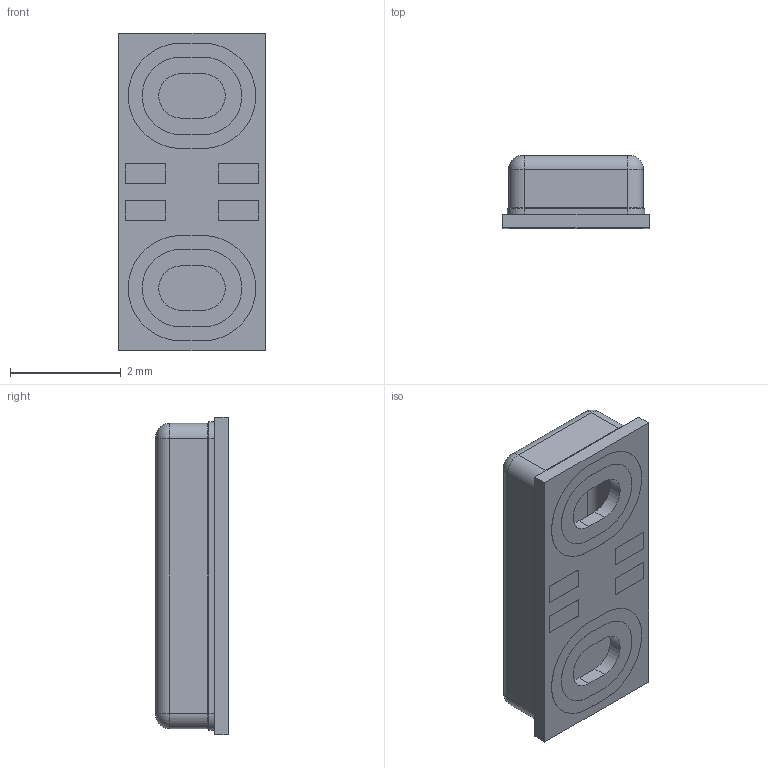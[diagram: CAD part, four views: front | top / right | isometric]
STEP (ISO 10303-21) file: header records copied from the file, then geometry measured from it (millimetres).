
FILE_DESCRIPTION (( 'STEP AP214' ), '1' );
FILE_NAME ('SKR0710.STEP', '2025-08-05T14:30:28', ( '' ), ( '' ), 'SwSTEP 2.0', 'SolidWorks 2025', '' );
FILE_SCHEMA (( 'AUTOMOTIVE_DESIGN' ));
Length unit declared in the file: inch
Products named in the file (5): SKR0710; SKR0710 PCB; MEMS die; Zilltek ZTA4909A Digital ASIC; SKR0710 lid
Assembly tree (4 placements, depth 2):
  SKR0710
    MEMS die
    SKR0710 lid
    SKR0710 PCB
    Zilltek ZTA4909A Digital ASIC
Bounding box: 2.65 x 1.31 x 5.73 mm (x, y, z)
Volume: 7.4 mm3; surface area: 98.3 mm2
Topology: 4 solids, 4 shells, 121 faces, 282 edges, 180 vertices
Faces by surface type: plane 71, cylinder 38, torus 12
Entity records: 4444 total; most frequent: DIRECTION 626, CARTESIAN_POINT 590, ORIENTED_EDGE 564, EDGE_CURVE 282, AXIS2_PLACEMENT_3D 216, VECTOR 194, LINE 194, VERTEX_POINT 180
